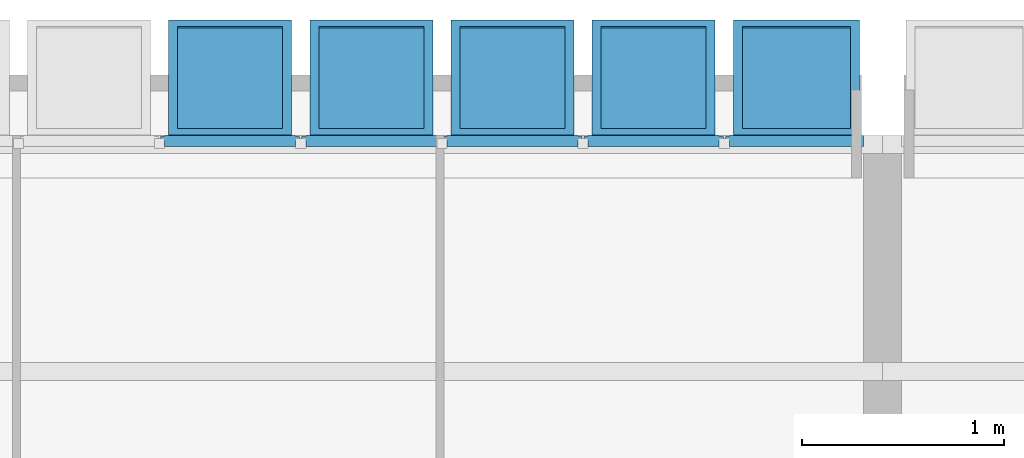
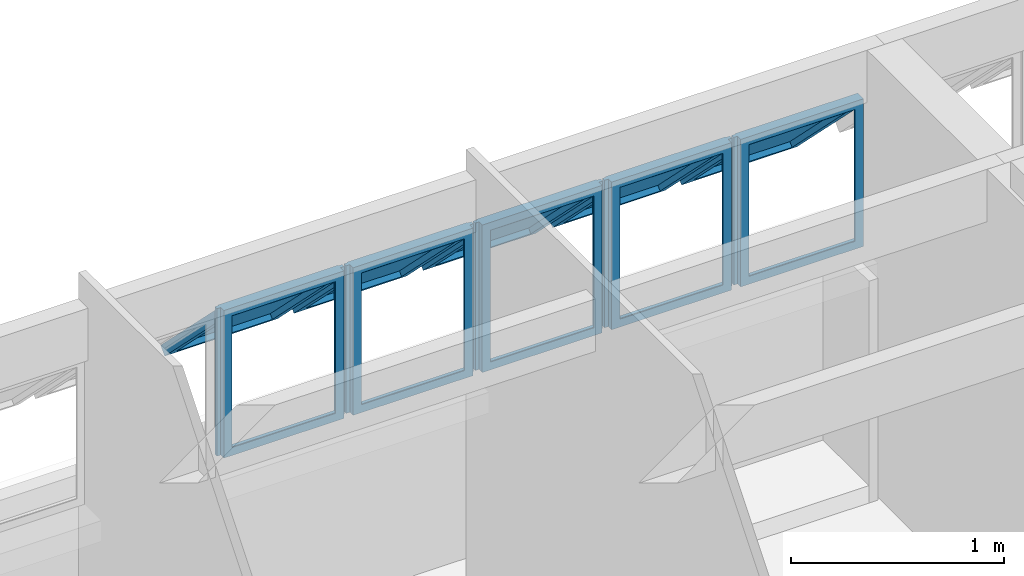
# One storey, part 15 of 40: 5 plates, 1 element without a shape of its own.
"""IFC4 building model written with IfcOpenShell, lengths in millimetres."""

import ifcopenshell
import ifcopenshell.guid

model = None  # the IFC model being written
_history = None  # IfcOwnerHistory: only IFC2X3 demands one
_inside = {}  # id of a spatial element -> (the spatial element, [elements in it])
_under = {}  # id of a project, library or spatial element -> (it, [spatial elements below it])
_declared = {}  # id of a project -> (the project, [libraries it declares])
_typed = {}  # id of a type object -> (the type object, [elements of that type])
_made_of = {}  # id of a material, layer set ... -> (it, [elements and type objects made of it])


def new_model(schema):
    """Start an empty IFC model of exactly this schema.

    Asked for "IFC4X3", IfcOpenShell would pick the latest addendum, in which some entities
    have other attributes; the version numbers below select the first issue.
    IFC2X3 requires an IfcOwnerHistory on every rooted entity: one is made here for all.
    """
    global model, _history
    if schema == "IFC4X3":
        model = ifcopenshell.file(schema_version=(4, 3, 0, 0))
    else:
        model = ifcopenshell.file(schema=schema)
    _inside.clear()
    _under.clear()
    _declared.clear()
    _typed.clear()
    _made_of.clear()
    _history = None
    if model.schema == "IFC2X3":
        org = make("IfcOrganization", Name="unknown")
        user = make(
            "IfcPersonAndOrganization",
            ThePerson=make("IfcPerson", FamilyName="unknown"),
            TheOrganization=org,
        )
        app = make(
            "IfcApplication",
            ApplicationDeveloper=org,
            Version="unknown",
            ApplicationFullName="unknown",
            ApplicationIdentifier="unknown",
        )
        _history = make(
            "IfcOwnerHistory",
            OwningUser=user,
            OwningApplication=app,
            ChangeAction="ADDED",
            CreationDate=0,
        )
    return model


def make(cls, **values):
    """One entity of the class cls with the attributes given. An attribute that is None is left unset."""
    return model.create_entity(
        cls, **{name: value for name, value in values.items() if value is not None}
    )


def entity(cls, *values):
    """Any entity or typed value of the class cls, its attributes in the order of the schema. None: left unset."""
    e = model.create_entity(cls)
    for i, value in enumerate(values):
        if value is not None:
            e[i] = value
    return e


def rooted(cls, **values):
    """An entity with a GlobalId (a new one), such as an element, a storey or a relation."""
    return make(cls, GlobalId=ifcopenshell.guid.new(), OwnerHistory=_history, **values)


def si_unit(unit_type, name, prefix=None):
    """IfcSIUnit, for example si_unit("LENGTHUNIT", "METRE", prefix="MILLI")."""
    return make("IfcSIUnit", UnitType=unit_type, Prefix=prefix, Name=name)


def converted_unit(unit_type, name, factor, base, dimensions=None, offset=None):
    """IfcConversionBasedUnit, such as the inch: factor (a typed value) times the base unit."""
    return make(
        "IfcConversionBasedUnit"
        if offset is None
        else "IfcConversionBasedUnitWithOffset",
        ConversionOffset=offset,
        Dimensions=None
        if dimensions is None
        else entity("IfcDimensionalExponents", *dimensions),
        UnitType=unit_type,
        Name=name,
        ConversionFactor=make(
            "IfcMeasureWithUnit", ValueComponent=factor, UnitComponent=base
        ),
    )


def derived_unit(unit_type, elements):
    """IfcDerivedUnit: a product of units, each with its exponent."""
    return make(
        "IfcDerivedUnit",
        Elements=[
            make("IfcDerivedUnitElement", Unit=unit, Exponent=power)
            for unit, power in elements
        ],
        UnitType=unit_type,
    )


def assignment(units):
    """IfcUnitAssignment: the units of a project."""
    return None if units is None else make("IfcUnitAssignment", Units=units)


def point(xyz):
    """IfcCartesianPoint."""
    return None if xyz is None else make("IfcCartesianPoint", Coordinates=xyz)


def direction(xyz):
    """IfcDirection."""
    return None if xyz is None else make("IfcDirection", DirectionRatios=xyz)


def frame(location, z_axis=None, x_axis=None):
    """IfcAxis2Placement3D, a coordinate frame: its origin and axes. An axis left out is left unset."""
    return make(
        "IfcAxis2Placement3D",
        Location=point(location),
        Axis=direction(z_axis),
        RefDirection=direction(x_axis),
    )


def origin_with_axes():
    """The frame at (0, 0, 0) with the z axis (0, 0, 1) and the x axis (1, 0, 0) written out."""
    return frame((0.0, 0.0, 0.0), z_axis=(0.0, 0.0, 1.0), x_axis=(1.0, 0.0, 0.0))


def place(relative_to, where):
    """IfcLocalPlacement: puts the frame where relative to a parent placement (None: the world)."""
    return make(
        "IfcLocalPlacement", PlacementRelTo=relative_to, RelativePlacement=where
    )


def context(
    kind, dimensions, precision=None, world=None, true_north=None, identifier=None
):
    """IfcGeometricRepresentationContext, for example the 3D "Model" context."""
    return make(
        "IfcGeometricRepresentationContext",
        ContextIdentifier=identifier,
        ContextType=kind,
        CoordinateSpaceDimension=dimensions,
        Precision=precision,
        WorldCoordinateSystem=world,
        TrueNorth=true_north,
    )


def subcontext(parent, identifier, kind, view, scale=None):
    """IfcGeometricRepresentationSubContext, for example "Body" below "Model"."""
    return make(
        "IfcGeometricRepresentationSubContext",
        ContextIdentifier=identifier,
        ContextType=kind,
        ParentContext=parent,
        TargetScale=scale,
        TargetView=view,
    )


def project(units=None, contexts=None):
    """IfcProject with its units and contexts."""
    return rooted(
        "IfcProject",
        Name="project",
        RepresentationContexts=contexts,
        UnitsInContext=assignment(units),
    )


def spatial(cls, under=None, at=None, **own):
    """A site, building, storey or space (cls), placed at a placement, below another one or the project."""
    s = rooted(cls, ObjectPlacement=at, **own)
    if under is not None:
        _under.setdefault(under.id(), (under, []))[1].append(s)
    return s


def point_list(points):
    """IfcCartesianPointList2D or 3D."""
    cls = (
        "IfcCartesianPointList2D" if len(points[0]) == 2 else "IfcCartesianPointList3D"
    )
    return make(cls, CoordList=points)


def polygons(points, faces, closed=None, point_numbers=None):
    """IfcPolygonalFaceSet: a face is its outer loop, then its inner loops; points numbered from 1."""
    made = []
    for loops in faces:
        if len(loops) == 1:
            made.append(make("IfcIndexedPolygonalFace", CoordIndex=loops[0]))
        else:
            made.append(
                make(
                    "IfcIndexedPolygonalFaceWithVoids",
                    CoordIndex=loops[0],
                    InnerCoordIndices=loops[1:],
                )
            )
    return make(
        "IfcPolygonalFaceSet",
        Coordinates=point_list(points),
        Closed=closed,
        Faces=made,
        PnIndex=point_numbers,
    )


def shape(context_of_items, identifier, shape_type, items):
    """IfcShapeRepresentation: the items that make up one representation, for example the "Body"."""
    return make(
        "IfcShapeRepresentation",
        ContextOfItems=context_of_items,
        RepresentationIdentifier=identifier,
        RepresentationType=shape_type,
        Items=items,
    )


def source(mapping_origin, context_of_items, identifier, shape_type, items):
    """IfcRepresentationMap: a shape defined once, which mapped items show again and again."""
    return make(
        "IfcRepresentationMap",
        MappingOrigin=mapping_origin,
        MappedRepresentation=shape(context_of_items, identifier, shape_type, items),
    )


def transform(
    local_origin,
    x_axis=None,
    y_axis=None,
    z_axis=None,
    scale=None,
    scale2=None,
    scale3=None,
    uniform=True,
):
    """IfcCartesianTransformationOperator3D, or its non-uniform kind. x_axis, y_axis, z_axis: its Axis1, 2, 3."""
    if uniform:
        return make(
            "IfcCartesianTransformationOperator3D",
            Axis1=direction(x_axis),
            Axis2=direction(y_axis),
            LocalOrigin=point(local_origin),
            Scale=scale,
            Axis3=direction(z_axis),
        )
    return make(
        "IfcCartesianTransformationOperator3DnonUniform",
        Axis1=direction(x_axis),
        Axis2=direction(y_axis),
        LocalOrigin=point(local_origin),
        Scale=scale,
        Axis3=direction(z_axis),
        Scale2=scale2,
        Scale3=scale3,
    )


def mapped(mapping_source, mapping_target):
    """IfcMappedItem: shows the shape of a source again, moved by a transform."""
    return make(
        "IfcMappedItem", MappingSource=mapping_source, MappingTarget=mapping_target
    )


def material(Name=None, Category=None):
    """IfcMaterial."""
    return make("IfcMaterial", Name=Name, Category=Category)


def constituent(of_material, Name=None, Category=None, fraction=None):
    """IfcMaterialConstituent: one of the materials an element consists of."""
    return make(
        "IfcMaterialConstituent",
        Name=Name,
        Material=of_material,
        Fraction=fraction,
        Category=Category,
    )


def constituent_set(constituents=None, Name=None):
    """IfcMaterialConstituentSet."""
    return make(
        "IfcMaterialConstituentSet", Name=Name, MaterialConstituents=constituents
    )


def made_of(thing, what):
    """Note that an element or type object is made of a material, layer set ...; save() writes the relation."""
    if what is not None:
        _made_of.setdefault(what.id(), (what, []))[1].append(thing)
    return thing


def type_object(cls, material=None, **own):
    """A type object (cls), such as IfcWallType, which elements share."""
    return made_of(rooted(cls, **own), material)


def element(
    cls,
    number,
    at=None,
    inside=None,
    cuts=None,
    type_object=None,
    material=None,
    context=None,
    identifier="Body",
    shape_type=None,
    held_by="IfcProductDefinitionShape",
    body=None,
    shapes=None,
    **own,
):
    """One element of the class cls, such as IfcWall. Its Tag is "e" and its number.

    at: its placement. inside: the storey or other place that contains it. cuts: it is an
    opening in that element (IfcRelVoidsElement). A single representation is given by context,
    identifier, shape_type and body (its items); several are given by shapes. held_by: the class
    of the entity that holds the representations. save() writes the other relations.
    """
    e = rooted(cls, Tag="e%d" % number, ObjectPlacement=at, **own)
    if body is not None:
        shapes = [shape(context, identifier, shape_type, body)]
    if shapes is not None:
        e.Representation = make(held_by, Representations=shapes)
    if inside is not None:
        _inside.setdefault(inside.id(), (inside, []))[1].append(e)
    if cuts is not None:
        rooted(
            "IfcRelVoidsElement", RelatingBuildingElement=cuts, RelatedOpeningElement=e
        )
    if type_object is not None:
        _typed.setdefault(type_object.id(), (type_object, []))[1].append(e)
    return made_of(e, material)


def aggregate(whole, parts):
    """IfcRelAggregates: a whole, such as a stair, and the parts it consists of."""
    return rooted("IfcRelAggregates", RelatingObject=whole, RelatedObjects=parts)


def save(model, path):
    """Write the relations noted so far, then the file.

    IfcRelAggregates (storeys below a building ...), IfcRelContainedInSpatialStructure (elements
    in a storey), IfcRelDefinesByType, IfcRelAssociatesMaterial and IfcRelDeclares: one each for
    every whole, place, type object, material and project.
    """
    for whole, parts in _under.values():
        aggregate(whole, parts)
    for where, things in _inside.values():
        rooted(
            "IfcRelContainedInSpatialStructure",
            RelatedElements=things,
            RelatingStructure=where,
        )
    for kind, things in _typed.values():
        rooted("IfcRelDefinesByType", RelatedObjects=things, RelatingType=kind)
    for what, things in _made_of.values():
        rooted("IfcRelAssociatesMaterial", RelatedObjects=things, RelatingMaterial=what)
    for by, libraries in _declared.values():
        rooted("IfcRelDeclares", RelatingContext=by, RelatedDefinitions=libraries)
    model.write(path)


model = new_model("IFC4")

# Units and contexts
model_context = context("Model", 3, precision=0.01, world=origin_with_axes(), true_north=direction((0.0, 1.0)))
body_context = subcontext(model_context, "Body", "Model", "MODEL_VIEW")
ifc_project = project(units=[si_unit("LENGTHUNIT", "METRE", prefix="MILLI"), si_unit("AREAUNIT", "SQUARE_METRE"), si_unit("VOLUMEUNIT", "CUBIC_METRE"), converted_unit("PLANEANGLEUNIT", "DEGREE", entity("IfcPlaneAngleMeasure", 0.0174532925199), si_unit("PLANEANGLEUNIT", "RADIAN"), dimensions=[0, 0, 0, 0, 0, 0, 0]), converted_unit("TIMEUNIT", "Year", entity("IfcTimeMeasure", 31556926.0), si_unit("TIMEUNIT", "SECOND"), dimensions=[0, 0, 1, 0, 0, 0, 0]), si_unit("MASSUNIT", "GRAM", prefix="KILO"), si_unit("THERMODYNAMICTEMPERATUREUNIT", "DEGREE_CELSIUS"), si_unit("LUMINOUSINTENSITYUNIT", "LUMEN"), si_unit("ENERGYUNIT", "JOULE", prefix="MEGA"), derived_unit("THERMALCONDUCTANCEUNIT", [(si_unit("POWERUNIT", "WATT"), 1), (si_unit("LENGTHUNIT", "METRE"), -1), (si_unit("THERMODYNAMICTEMPERATUREUNIT", "KELVIN"), -1)]), derived_unit("SPECIFICHEATCAPACITYUNIT", [(si_unit("ENERGYUNIT", "JOULE"), 1), (si_unit("MASSUNIT", "GRAM", prefix="KILO"), -1), (si_unit("THERMODYNAMICTEMPERATUREUNIT", "KELVIN"), -1)]), derived_unit("MASSDENSITYUNIT", [(si_unit("MASSUNIT", "GRAM", prefix="KILO"), 1), (si_unit("VOLUMEUNIT", "CUBIC_METRE"), -1)])], contexts=[model_context])

# Site, building, storey
site_placement = place(None, origin_with_axes())
site = spatial("IfcSite", under=ifc_project, at=site_placement, Name="Local", CompositionType="ELEMENT")
building_placement = place(site_placement, origin_with_axes())
building = spatial("IfcBuilding", under=site, at=building_placement, Name="Construção", CompositionType="ELEMENT")
storey_placement = place(building_placement, frame((0.0, 0.0, 5300.0), z_axis=(0.0, 0.0, 1.0), x_axis=(1.0, 0.0, 0.0)))
storey = spatial("IfcBuildingStorey", under=building, at=storey_placement, Name="Terceiro Pavimento", CompositionType="ELEMENT", Elevation=5300.0)

# Window, plates
window_type = type_object("IfcWindowType", Name="Tipo de Parede Cortina", PartitioningType="NOTDEFINED", PredefinedType="NOTDEFINED")
window_placement = place(storey_placement, frame((6250.0, 25844.9790225, 1355.02054151), z_axis=(0.0, 0.0, 1.0), x_axis=(1.0, 0.0, 0.0)))
window = element("IfcWindow", 1, at=window_placement, inside=storey, type_object=window_type, Name="APTO11-JANELA-001", PredefinedType="NOTDEFINED")
ifc_material_1 = material(Name="Alumínio")
ifc_constituent_1 = constituent(ifc_material_1, Name="Alumínio")
ifc_material_2 = material(Name="Vidro")
ifc_constituent_2 = constituent(ifc_material_2, Name="Vidro")
ifc_constituent_set_1 = constituent_set(constituents=[ifc_constituent_1, ifc_constituent_2])
plate_type_1 = type_object("IfcPlateType", Name="Painel Principal 690 x 845 x 20", PredefinedType="CURTAIN_PANEL")
shared_shape_1 = source(origin_with_axes(), body_context, "Body", "Tessellation", [
    polygons([(-25.0000036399, 0.0, -40.0), (-25.0000036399, 0.0, -35.0), (-674.999997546, 0.0, -35.0), (-674.999997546, 0.0, -40.0), (-70.0000036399, 45.0, -40.0), (-70.0000036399, 45.0, -35.0), (-629.999997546, 45.0, -35.0), (-629.999997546, 45.0, -40.0)], [[[1, 2, 3, 4]], [[5, 6, 2, 1]], [[2, 6, 7, 3]], [[4, 3, 7, 8]], [[1, 4, 8, 5]], [[8, 7, 6, 5]]], closed=True),
    polygons([(-674.999997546, 0.0, -40.0), (-674.999997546, 0.0, -35.0), (-674.999997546, 844.999891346, -35.0), (-674.999997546, 844.999891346, -40.0), (-629.999997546, 45.0, -40.0), (-629.999997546, 45.0, -35.0), (-629.999997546, 799.999891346, -35.0), (-629.999997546, 799.999891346, -40.0)], [[[1, 2, 3, 4]], [[5, 6, 2, 1]], [[2, 6, 7, 3]], [[4, 3, 7, 8]], [[1, 4, 8, 5]], [[8, 7, 6, 5]]], closed=True),
    polygons([(-25.0000036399, 844.999891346, -40.0), (-25.0000036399, 844.999891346, -35.0), (-70.0000036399, 799.999891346, -35.0), (-70.0000036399, 799.999891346, -40.0), (-674.999997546, 844.999891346, -40.0), (-674.999997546, 844.999891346, -35.0), (-629.999997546, 799.999891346, -35.0), (-629.999997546, 799.999891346, -40.0)], [[[1, 2, 3, 4]], [[5, 6, 2, 1]], [[2, 6, 7, 3]], [[4, 3, 7, 8]], [[1, 4, 8, 5]], [[8, 7, 6, 5]]], closed=True),
    polygons([(-25.0000036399, 0.0, -40.0), (-25.0000036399, 0.0, -35.0), (-70.0000036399, 45.0, -35.0), (-70.0000036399, 45.0, -40.0), (-25.0000036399, 844.999891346, -40.0), (-25.0000036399, 844.999891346, -35.0), (-70.0000036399, 799.999891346, -35.0), (-70.0000036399, 799.999891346, -40.0)], [[[1, 2, 3, 4]], [[5, 6, 2, 1]], [[2, 6, 7, 3]], [[4, 3, 7, 8]], [[1, 4, 8, 5]], [[8, 7, 6, 5]]], closed=True),
    polygons([(-25.0000036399, 0.0, -35.0), (-25.0000036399, 0.0, 15.0), (-674.999997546, 0.0, 15.0), (-674.999997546, 0.0, -35.0), (-45.0000036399, 20.0, -35.0), (-45.0000036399, 20.0, 15.0), (-654.999997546, 20.0, 15.0), (-654.999997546, 20.0, -35.0)], [[[1, 2, 3, 4]], [[5, 6, 2, 1]], [[2, 6, 7, 3]], [[4, 3, 7, 8]], [[1, 4, 8, 5]], [[8, 7, 6, 5]]], closed=True),
    polygons([(-674.999997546, 0.0, -35.0), (-674.999997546, 0.0, 15.0), (-674.999997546, 844.999891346, 15.0), (-674.999997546, 844.999891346, -35.0), (-654.999997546, 20.0, -35.0), (-654.999997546, 20.0, 15.0), (-654.999997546, 824.999891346, 15.0), (-654.999997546, 824.999891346, -35.0)], [[[1, 2, 3, 4]], [[5, 6, 2, 1]], [[2, 6, 7, 3]], [[4, 3, 7, 8]], [[1, 4, 8, 5]], [[8, 7, 6, 5]]], closed=True),
    polygons([(-25.0000036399, 844.999891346, -35.0), (-25.0000036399, 844.999891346, 15.0), (-45.0000036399, 824.999891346, 15.0), (-45.0000036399, 824.999891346, -35.0), (-674.999997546, 844.999891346, -35.0), (-674.999997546, 844.999891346, 15.0), (-654.999997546, 824.999891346, 15.0), (-654.999997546, 824.999891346, -35.0)], [[[1, 2, 3, 4]], [[5, 6, 2, 1]], [[2, 6, 7, 3]], [[4, 3, 7, 8]], [[1, 4, 8, 5]], [[8, 7, 6, 5]]], closed=True),
    polygons([(-25.0000036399, 0.0, -35.0), (-25.0000036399, 0.0, 15.0), (-45.0000036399, 20.0, 15.0), (-45.0000036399, 20.0, -35.0), (-25.0000036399, 844.999891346, -35.0), (-25.0000036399, 844.999891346, 15.0), (-45.0000036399, 824.999891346, 15.0), (-45.0000036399, 824.999891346, -35.0)], [[[1, 2, 3, 4]], [[5, 6, 2, 1]], [[2, 6, 7, 3]], [[4, 3, 7, 8]], [[1, 4, 8, 5]], [[8, 7, 6, 5]]], closed=True),
    polygons([(-694.999995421, 0.0, -10.0), (-694.999995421, 0.0, 10.0), (-694.999995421, 844.999891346, 10.0), (-694.999995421, 844.999891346, -10.0), (-674.999997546, 0.0, -10.0), (-674.999997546, 0.0, 10.0), (-674.999997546, 844.999891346, 10.0), (-674.999997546, 844.999891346, -10.0)], [[[1, 2, 3, 4]], [[5, 6, 2, 1]], [[2, 6, 7, 3]], [[4, 3, 7, 8]], [[1, 4, 8, 5]], [[8, 7, 6, 5]]], closed=True),
    polygons([(-5.00000576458, 844.999891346, -10.0), (-5.00000576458, 844.999891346, 10.0), (-5.00000576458, 0.0, 10.0), (-5.00000576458, 0.0, -10.0), (-25.0000036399, 844.999891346, -10.0), (-25.0000036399, 844.999891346, 10.0), (-25.0000036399, 0.0, 10.0), (-25.0000036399, 0.0, -10.0)], [[[1, 2, 3, 4]], [[5, 6, 2, 1]], [[2, 6, 7, 3]], [[4, 3, 7, 8]], [[1, 4, 8, 5]], [[8, 7, 6, 5]]], closed=True),
    polygons([(-90.0000036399, 252.243475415, 517.045737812), (-90.0000036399, 291.13434838, 555.936610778), (-90.0000036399, 796.715620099, 50.3553390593), (-90.0000036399, 757.824747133, 11.4644660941), (-45.0000036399, 220.423670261, 548.865542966), (-45.0000036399, 259.314543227, 587.756415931), (-45.0000036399, 828.535425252, 18.5355339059), (-45.0000036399, 789.644552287, -20.3553390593)], [[[1, 2, 3, 4]], [[5, 6, 2, 1]], [[2, 6, 7, 3]], [[4, 3, 7, 8]], [[1, 4, 8, 5]], [[8, 7, 6, 5]]], closed=True),
    polygons([(-654.999997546, 220.423670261, 548.865542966), (-654.999997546, 259.314543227, 587.756415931), (-654.999997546, 828.535425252, 18.5355339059), (-654.999997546, 789.644552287, -20.3553390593), (-609.999997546, 252.243475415, 517.045737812), (-609.999997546, 291.13434838, 555.936610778), (-609.999997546, 796.715620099, 50.3553390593), (-609.999997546, 757.824747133, 11.4644660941)], [[[1, 2, 3, 4]], [[5, 6, 2, 1]], [[2, 6, 7, 3]], [[4, 3, 7, 8]], [[1, 4, 8, 5]], [[8, 7, 6, 5]]], closed=True),
    polygons([(-654.999997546, 220.423670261, 548.865542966), (-654.999997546, 259.314543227, 587.756415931), (-609.999997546, 291.13434838, 555.936610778), (-609.999997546, 252.243475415, 517.045737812), (-45.0000036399, 220.423670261, 548.865542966), (-45.0000036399, 259.314543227, 587.756415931), (-90.0000036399, 291.13434838, 555.936610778), (-90.0000036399, 252.243475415, 517.045737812)], [[[1, 2, 3, 4]], [[5, 6, 2, 1]], [[2, 6, 7, 3]], [[4, 3, 7, 8]], [[1, 4, 8, 5]], [[8, 7, 6, 5]]], closed=True),
    polygons([(-45.0000036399, 789.644552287, -20.3553390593), (-45.0000036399, 828.535425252, 18.5355339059), (-90.0000036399, 796.715620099, 50.3553390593), (-90.0000036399, 757.824747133, 11.4644660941), (-654.999997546, 789.644552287, -20.3553390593), (-654.999997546, 828.535425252, 18.5355339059), (-609.999997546, 796.715620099, 50.3553390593), (-609.999997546, 757.824747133, 11.4644660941)], [[[1, 2, 3, 4]], [[5, 6, 2, 1]], [[2, 6, 7, 3]], [[4, 3, 7, 8]], [[1, 4, 8, 5]], [[8, 7, 6, 5]]], closed=True),
    polygons([(-90.0000036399, 272.749572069, 537.551834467), (-90.0000036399, 284.063280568, 548.865542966), (-609.999997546, 284.063280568, 548.865542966), (-609.999997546, 272.749572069, 537.551834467), (-90.0000036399, 778.330843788, 31.9705627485), (-90.0000036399, 789.644552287, 43.2842712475), (-609.999997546, 789.644552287, 43.2842712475), (-609.999997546, 778.330843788, 31.9705627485)], [[[1, 2, 3, 4]], [[5, 6, 2, 1]], [[2, 6, 7, 3]], [[4, 3, 7, 8]], [[1, 4, 8, 5]], [[8, 7, 6, 5]]], closed=True),
])
plate_1_placement = place(window_placement, frame((0.0, 0.0, 422.499945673), z_axis=(0.0, 0.0, 1.0), x_axis=(-1.0, 0.0, 0.0)))
plate_1 = element("IfcPlate", 2, at=plate_1_placement, type_object=plate_type_1, material=ifc_constituent_set_1, Name="APTO11-Painel-Prin-030", PredefinedType="CURTAIN_PANEL", context=body_context, shape_type="MappedRepresentation", body=[
    mapped(shared_shape_1, transform((350.0, 0.0, -422.499945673), x_axis=(1.0, 0.0, 0.0), y_axis=(0.0, 0.0, 1.0), z_axis=(0.0, -1.0, 0.0))),
])
ifc_constituent_3 = constituent(ifc_material_1, Name="Alumínio")
ifc_constituent_4 = constituent(ifc_material_2, Name="Vidro")
ifc_constituent_set_2 = constituent_set(constituents=[ifc_constituent_3, ifc_constituent_4])
plate_2_placement = place(window_placement, frame((-700.0, 0.0, 422.499945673), z_axis=(0.0, 0.0, 1.0), x_axis=(-1.0, 0.0, 0.0)))
plate_2 = element("IfcPlate", 3, at=plate_2_placement, type_object=plate_type_1, material=ifc_constituent_set_2, Name="APTO11-Painel-Prin-020", PredefinedType="CURTAIN_PANEL", context=body_context, shape_type="MappedRepresentation", body=[
    mapped(shared_shape_1, transform((350.0, 0.0, -422.499945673), x_axis=(1.0, 0.0, 0.0), y_axis=(0.0, 0.0, 1.0), z_axis=(0.0, -1.0, 0.0))),
])
ifc_constituent_5 = constituent(ifc_material_1, Name="Alumínio")
ifc_constituent_6 = constituent(ifc_material_2, Name="Vidro")
ifc_constituent_set_3 = constituent_set(constituents=[ifc_constituent_5, ifc_constituent_6])
plate_3_placement = place(window_placement, frame((-1400.0, 0.0, 422.499945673), z_axis=(0.0, 0.0, 1.0), x_axis=(-1.0, 0.0, 0.0)))
plate_3 = element("IfcPlate", 4, at=plate_3_placement, type_object=plate_type_1, material=ifc_constituent_set_3, Name="APTO11-Painel-Prin-029", PredefinedType="CURTAIN_PANEL", context=body_context, shape_type="MappedRepresentation", body=[
    mapped(shared_shape_1, transform((350.0, 0.0, -422.499945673), x_axis=(1.0, 0.0, 0.0), y_axis=(0.0, 0.0, 1.0), z_axis=(0.0, -1.0, 0.0))),
])
ifc_constituent_7 = constituent(ifc_material_1, Name="Alumínio")
ifc_constituent_8 = constituent(ifc_material_2, Name="Vidro")
ifc_constituent_set_4 = constituent_set(constituents=[ifc_constituent_7, ifc_constituent_8])
shared_shape_2 = source(origin_with_axes(), body_context, "Body", "Tessellation", [
    polygons([(-25.0000036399, 0.0, -40.0), (-25.0000036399, 0.0, -35.0), (-674.999997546, 0.0, -35.0), (-674.999997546, 0.0, -40.0), (-70.0000036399, 45.0, -40.0), (-70.0000036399, 45.0, -35.0), (-629.999997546, 45.0, -35.0), (-629.999997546, 45.0, -40.0)], [[[1, 2, 3, 4]], [[5, 6, 2, 1]], [[2, 6, 7, 3]], [[4, 3, 7, 8]], [[1, 4, 8, 5]], [[8, 7, 6, 5]]], closed=True),
    polygons([(-674.999997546, 0.0, -40.0), (-674.999997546, 0.0, -35.0), (-674.999997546, 844.999891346, -35.0), (-674.999997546, 844.999891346, -40.0), (-629.999997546, 45.0, -40.0), (-629.999997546, 45.0, -35.0), (-629.999997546, 799.999891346, -35.0), (-629.999997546, 799.999891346, -40.0)], [[[1, 2, 3, 4]], [[5, 6, 2, 1]], [[2, 6, 7, 3]], [[4, 3, 7, 8]], [[1, 4, 8, 5]], [[8, 7, 6, 5]]], closed=True),
    polygons([(-25.0000036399, 844.999891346, -40.0), (-25.0000036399, 844.999891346, -35.0), (-70.0000036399, 799.999891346, -35.0), (-70.0000036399, 799.999891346, -40.0), (-674.999997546, 844.999891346, -40.0), (-674.999997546, 844.999891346, -35.0), (-629.999997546, 799.999891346, -35.0), (-629.999997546, 799.999891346, -40.0)], [[[1, 2, 3, 4]], [[5, 6, 2, 1]], [[2, 6, 7, 3]], [[4, 3, 7, 8]], [[1, 4, 8, 5]], [[8, 7, 6, 5]]], closed=True),
    polygons([(-25.0000036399, 0.0, -40.0), (-25.0000036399, 0.0, -35.0), (-70.0000036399, 45.0, -35.0), (-70.0000036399, 45.0, -40.0), (-25.0000036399, 844.999891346, -40.0), (-25.0000036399, 844.999891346, -35.0), (-70.0000036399, 799.999891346, -35.0), (-70.0000036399, 799.999891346, -40.0)], [[[1, 2, 3, 4]], [[5, 6, 2, 1]], [[2, 6, 7, 3]], [[4, 3, 7, 8]], [[1, 4, 8, 5]], [[8, 7, 6, 5]]], closed=True),
    polygons([(-25.0000036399, 0.0, -35.0), (-25.0000036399, 0.0, 15.0), (-674.999997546, 0.0, 15.0), (-674.999997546, 0.0, -35.0), (-45.0000036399, 20.0, -35.0), (-45.0000036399, 20.0, 15.0), (-654.999997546, 20.0, 15.0), (-654.999997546, 20.0, -35.0)], [[[1, 2, 3, 4]], [[5, 6, 2, 1]], [[2, 6, 7, 3]], [[4, 3, 7, 8]], [[1, 4, 8, 5]], [[8, 7, 6, 5]]], closed=True),
    polygons([(-674.999997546, 0.0, -35.0), (-674.999997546, 0.0, 15.0), (-674.999997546, 844.999891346, 15.0), (-674.999997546, 844.999891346, -35.0), (-654.999997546, 20.0, -35.0), (-654.999997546, 20.0, 15.0), (-654.999997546, 824.999891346, 15.0), (-654.999997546, 824.999891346, -35.0)], [[[1, 2, 3, 4]], [[5, 6, 2, 1]], [[2, 6, 7, 3]], [[4, 3, 7, 8]], [[1, 4, 8, 5]], [[8, 7, 6, 5]]], closed=True),
    polygons([(-25.0000036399, 844.999891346, -35.0), (-25.0000036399, 844.999891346, 15.0), (-45.0000036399, 824.999891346, 15.0), (-45.0000036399, 824.999891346, -35.0), (-674.999997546, 844.999891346, -35.0), (-674.999997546, 844.999891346, 15.0), (-654.999997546, 824.999891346, 15.0), (-654.999997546, 824.999891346, -35.0)], [[[1, 2, 3, 4]], [[5, 6, 2, 1]], [[2, 6, 7, 3]], [[4, 3, 7, 8]], [[1, 4, 8, 5]], [[8, 7, 6, 5]]], closed=True),
    polygons([(-25.0000036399, 0.0, -35.0), (-25.0000036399, 0.0, 15.0), (-45.0000036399, 20.0, 15.0), (-45.0000036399, 20.0, -35.0), (-25.0000036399, 844.999891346, -35.0), (-25.0000036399, 844.999891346, 15.0), (-45.0000036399, 824.999891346, 15.0), (-45.0000036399, 824.999891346, -35.0)], [[[1, 2, 3, 4]], [[5, 6, 2, 1]], [[2, 6, 7, 3]], [[4, 3, 7, 8]], [[1, 4, 8, 5]], [[8, 7, 6, 5]]], closed=True),
    polygons([(-694.999995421, 0.0, -10.0), (-694.999995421, 0.0, 10.0), (-694.999995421, 844.999891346, 10.0), (-694.999995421, 844.999891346, -10.0), (-674.999997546, 0.0, -10.0), (-674.999997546, 0.0, 10.0), (-674.999997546, 844.999891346, 10.0), (-674.999997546, 844.999891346, -10.0)], [[[1, 2, 3, 4]], [[5, 6, 2, 1]], [[2, 6, 7, 3]], [[4, 3, 7, 8]], [[1, 4, 8, 5]], [[8, 7, 6, 5]]], closed=True),
    polygons([(-5.00000576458, 844.999891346, -10.0), (-5.00000576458, 844.999891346, 10.0), (-5.00000576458, 0.0, 10.0), (-5.00000576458, 0.0, -10.0), (-25.0000036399, 844.999891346, -10.0), (-25.0000036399, 844.999891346, 10.0), (-25.0000036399, 0.0, 10.0), (-25.0000036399, 0.0, -10.0)], [[[1, 2, 3, 4]], [[5, 6, 2, 1]], [[2, 6, 7, 3]], [[4, 3, 7, 8]], [[1, 4, 8, 5]], [[8, 7, 6, 5]]], closed=True),
    polygons([(-90.0000036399, 252.243475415, 517.045737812), (-90.0000036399, 291.13434838, 555.936610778), (-90.0000036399, 796.715620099, 50.3553390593), (-90.0000036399, 757.824747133, 11.4644660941), (-45.0000036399, 220.423670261, 548.865542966), (-45.0000036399, 259.314543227, 587.756415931), (-45.0000036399, 828.535425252, 18.5355339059), (-45.0000036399, 789.644552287, -20.3553390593)], [[[1, 2, 3, 4]], [[5, 6, 2, 1]], [[2, 6, 7, 3]], [[4, 3, 7, 8]], [[1, 4, 8, 5]], [[8, 7, 6, 5]]], closed=True),
    polygons([(-654.999997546, 220.423670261, 548.865542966), (-654.999997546, 259.314543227, 587.756415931), (-654.999997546, 828.535425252, 18.5355339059), (-654.999997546, 789.644552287, -20.3553390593), (-609.999997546, 252.243475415, 517.045737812), (-609.999997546, 291.13434838, 555.936610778), (-609.999997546, 796.715620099, 50.3553390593), (-609.999997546, 757.824747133, 11.4644660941)], [[[1, 2, 3, 4]], [[5, 6, 2, 1]], [[2, 6, 7, 3]], [[4, 3, 7, 8]], [[1, 4, 8, 5]], [[8, 7, 6, 5]]], closed=True),
    polygons([(-654.999997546, 220.423670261, 548.865542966), (-654.999997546, 259.314543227, 587.756415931), (-609.999997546, 291.13434838, 555.936610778), (-609.999997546, 252.243475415, 517.045737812), (-45.0000036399, 220.423670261, 548.865542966), (-45.0000036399, 259.314543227, 587.756415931), (-90.0000036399, 291.13434838, 555.936610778), (-90.0000036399, 252.243475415, 517.045737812)], [[[1, 2, 3, 4]], [[5, 6, 2, 1]], [[2, 6, 7, 3]], [[4, 3, 7, 8]], [[1, 4, 8, 5]], [[8, 7, 6, 5]]], closed=True),
    polygons([(-45.0000036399, 789.644552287, -20.3553390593), (-45.0000036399, 828.535425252, 18.5355339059), (-90.0000036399, 796.715620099, 50.3553390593), (-90.0000036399, 757.824747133, 11.4644660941), (-654.999997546, 789.644552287, -20.3553390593), (-654.999997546, 828.535425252, 18.5355339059), (-609.999997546, 796.715620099, 50.3553390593), (-609.999997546, 757.824747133, 11.4644660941)], [[[1, 2, 3, 4]], [[5, 6, 2, 1]], [[2, 6, 7, 3]], [[4, 3, 7, 8]], [[1, 4, 8, 5]], [[8, 7, 6, 5]]], closed=True),
    polygons([(-90.0000036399, 272.749572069, 537.551834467), (-90.0000036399, 284.063280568, 548.865542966), (-609.999997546, 284.063280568, 548.865542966), (-609.999997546, 272.749572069, 537.551834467), (-90.0000036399, 778.330843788, 31.9705627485), (-90.0000036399, 789.644552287, 43.2842712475), (-609.999997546, 789.644552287, 43.2842712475), (-609.999997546, 778.330843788, 31.9705627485)], [[[1, 2, 3, 4]], [[5, 6, 2, 1]], [[2, 6, 7, 3]], [[4, 3, 7, 8]], [[1, 4, 8, 5]], [[8, 7, 6, 5]]], closed=True),
])
plate_4_placement = place(window_placement, frame((-2100.0, 0.0, 422.499945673), z_axis=(0.0, 0.0, 1.0), x_axis=(-1.0, 0.0, 0.0)))
plate_4 = element("IfcPlate", 5, at=plate_4_placement, type_object=plate_type_1, material=ifc_constituent_set_4, Name="APTO11-Painel-Prin-025", PredefinedType="CURTAIN_PANEL", context=body_context, shape_type="MappedRepresentation", body=[
    mapped(shared_shape_2, transform((350.0, 0.0, -422.499945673), x_axis=(1.0, 0.0, 0.0), y_axis=(0.0, 0.0, 1.0), z_axis=(0.0, -1.0, 0.0))),
])
ifc_constituent_9 = constituent(ifc_material_1, Name="Alumínio")
ifc_constituent_10 = constituent(ifc_material_2, Name="Vidro")
ifc_constituent_set_5 = constituent_set(constituents=[ifc_constituent_9, ifc_constituent_10])
plate_type_2 = type_object("IfcPlateType", Name="Painel Principal 685 x 845 x 20", PredefinedType="CURTAIN_PANEL")
shared_shape_3 = source(origin_with_axes(), body_context, "Body", "Tessellation", [
    polygons([(-25.0000046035, 0.0, -40.0), (-25.0000046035, 0.0, -35.0), (-690.000079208, 0.0, -35.0), (-690.000079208, 0.0, -40.0), (-70.0000046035, 45.0, -40.0), (-70.0000046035, 45.0, -35.0), (-645.000079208, 45.0, -35.0), (-645.000079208, 45.0, -40.0)], [[[1, 2, 3, 4]], [[5, 6, 2, 1]], [[2, 6, 7, 3]], [[4, 3, 7, 8]], [[1, 4, 8, 5]], [[8, 7, 6, 5]]], closed=True),
    polygons([(-690.000079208, 0.0, -40.0), (-690.000079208, 0.0, -35.0), (-690.000079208, 844.999923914, -35.0), (-690.000079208, 844.999923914, -40.0), (-645.000079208, 45.0, -40.0), (-645.000079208, 45.0, -35.0), (-645.000079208, 799.999923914, -35.0), (-645.000079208, 799.999923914, -40.0)], [[[1, 2, 3, 4]], [[5, 6, 2, 1]], [[2, 6, 7, 3]], [[4, 3, 7, 8]], [[1, 4, 8, 5]], [[8, 7, 6, 5]]], closed=True),
    polygons([(-25.0000046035, 844.999923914, -40.0), (-25.0000046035, 844.999923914, -35.0), (-70.0000046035, 799.999923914, -35.0), (-70.0000046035, 799.999923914, -40.0), (-690.000079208, 844.999923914, -40.0), (-690.000079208, 844.999923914, -35.0), (-645.000079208, 799.999923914, -35.0), (-645.000079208, 799.999923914, -40.0)], [[[1, 2, 3, 4]], [[5, 6, 2, 1]], [[2, 6, 7, 3]], [[4, 3, 7, 8]], [[1, 4, 8, 5]], [[8, 7, 6, 5]]], closed=True),
    polygons([(-25.0000046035, 0.0, -40.0), (-25.0000046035, 0.0, -35.0), (-70.0000046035, 45.0, -35.0), (-70.0000046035, 45.0, -40.0), (-25.0000046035, 844.999923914, -40.0), (-25.0000046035, 844.999923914, -35.0), (-70.0000046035, 799.999923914, -35.0), (-70.0000046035, 799.999923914, -40.0)], [[[1, 2, 3, 4]], [[5, 6, 2, 1]], [[2, 6, 7, 3]], [[4, 3, 7, 8]], [[1, 4, 8, 5]], [[8, 7, 6, 5]]], closed=True),
    polygons([(-25.0000046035, 0.0, -35.0), (-25.0000046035, 0.0, 15.0), (-690.000079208, 0.0, 15.0), (-690.000079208, 0.0, -35.0), (-45.0000046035, 20.0, -35.0), (-45.0000046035, 20.0, 15.0), (-670.000079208, 20.0, 15.0), (-670.000079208, 20.0, -35.0)], [[[1, 2, 3, 4]], [[5, 6, 2, 1]], [[2, 6, 7, 3]], [[4, 3, 7, 8]], [[1, 4, 8, 5]], [[8, 7, 6, 5]]], closed=True),
    polygons([(-690.000079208, 0.0, -35.0), (-690.000079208, 0.0, 15.0), (-690.000079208, 844.999923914, 15.0), (-690.000079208, 844.999923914, -35.0), (-670.000079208, 20.0, -35.0), (-670.000079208, 20.0, 15.0), (-670.000079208, 824.999923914, 15.0), (-670.000079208, 824.999923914, -35.0)], [[[1, 2, 3, 4]], [[5, 6, 2, 1]], [[2, 6, 7, 3]], [[4, 3, 7, 8]], [[1, 4, 8, 5]], [[8, 7, 6, 5]]], closed=True),
    polygons([(-25.0000046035, 844.999923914, -35.0), (-25.0000046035, 844.999923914, 15.0), (-45.0000046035, 824.999923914, 15.0), (-45.0000046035, 824.999923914, -35.0), (-690.000079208, 844.999923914, -35.0), (-690.000079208, 844.999923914, 15.0), (-670.000079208, 824.999923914, 15.0), (-670.000079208, 824.999923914, -35.0)], [[[1, 2, 3, 4]], [[5, 6, 2, 1]], [[2, 6, 7, 3]], [[4, 3, 7, 8]], [[1, 4, 8, 5]], [[8, 7, 6, 5]]], closed=True),
    polygons([(-25.0000046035, 0.0, -35.0), (-25.0000046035, 0.0, 15.0), (-45.0000046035, 20.0, 15.0), (-45.0000046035, 20.0, -35.0), (-25.0000046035, 844.999923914, -35.0), (-25.0000046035, 844.999923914, 15.0), (-45.0000046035, 824.999923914, 15.0), (-45.0000046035, 824.999923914, -35.0)], [[[1, 2, 3, 4]], [[5, 6, 2, 1]], [[2, 6, 7, 3]], [[4, 3, 7, 8]], [[1, 4, 8, 5]], [[8, 7, 6, 5]]], closed=True),
    polygons([(-5.00000595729, 844.999923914, -10.0), (-5.00000595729, 844.999923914, 10.0), (-5.00000595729, 0.0, 10.0), (-5.00000595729, 0.0, -10.0), (-25.0000046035, 844.999923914, -10.0), (-25.0000046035, 844.999923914, 10.0), (-25.0000046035, 0.0, 10.0), (-25.0000046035, 0.0, -10.0)], [[[1, 2, 3, 4]], [[5, 6, 2, 1]], [[2, 6, 7, 3]], [[4, 3, 7, 8]], [[1, 4, 8, 5]], [[8, 7, 6, 5]]], closed=True),
    polygons([(-90.0000046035, 252.243484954, 517.045760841), (-90.0000046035, 291.134357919, 555.936633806), (-90.0000046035, 796.715652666, 50.3553390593), (-90.0000046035, 757.824779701, 11.4644660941), (-45.0000046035, 220.4236798, 548.865565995), (-45.0000046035, 259.314552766, 587.75643896), (-45.0000046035, 828.535457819, 18.5355339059), (-45.0000046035, 789.644584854, -20.3553390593)], [[[1, 2, 3, 4]], [[5, 6, 2, 1]], [[2, 6, 7, 3]], [[4, 3, 7, 8]], [[1, 4, 8, 5]], [[8, 7, 6, 5]]], closed=True),
    polygons([(-670.000079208, 220.4236798, 548.865565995), (-670.000079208, 259.314552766, 587.75643896), (-670.000079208, 828.535457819, 18.5355339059), (-670.000079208, 789.644584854, -20.3553390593), (-625.000079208, 252.243484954, 517.045760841), (-625.000079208, 291.134357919, 555.936633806), (-625.000079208, 796.715652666, 50.3553390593), (-625.000079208, 757.824779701, 11.4644660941)], [[[1, 2, 3, 4]], [[5, 6, 2, 1]], [[2, 6, 7, 3]], [[4, 3, 7, 8]], [[1, 4, 8, 5]], [[8, 7, 6, 5]]], closed=True),
    polygons([(-670.000079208, 220.4236798, 548.865565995), (-670.000079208, 259.314552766, 587.75643896), (-625.000079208, 291.134357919, 555.936633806), (-625.000079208, 252.243484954, 517.045760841), (-45.0000046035, 220.4236798, 548.865565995), (-45.0000046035, 259.314552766, 587.75643896), (-90.0000046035, 291.134357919, 555.936633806), (-90.0000046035, 252.243484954, 517.045760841)], [[[1, 2, 3, 4]], [[5, 6, 2, 1]], [[2, 6, 7, 3]], [[4, 3, 7, 8]], [[1, 4, 8, 5]], [[8, 7, 6, 5]]], closed=True),
    polygons([(-45.0000046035, 789.644584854, -20.3553390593), (-45.0000046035, 828.535457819, 18.5355339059), (-90.0000046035, 796.715652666, 50.3553390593), (-90.0000046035, 757.824779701, 11.4644660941), (-670.000079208, 789.644584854, -20.3553390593), (-670.000079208, 828.535457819, 18.5355339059), (-625.000079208, 796.715652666, 50.3553390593), (-625.000079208, 757.824779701, 11.4644660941)], [[[1, 2, 3, 4]], [[5, 6, 2, 1]], [[2, 6, 7, 3]], [[4, 3, 7, 8]], [[1, 4, 8, 5]], [[8, 7, 6, 5]]], closed=True),
    polygons([(-90.0000046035, 272.749581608, 537.551857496), (-90.0000046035, 284.063290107, 548.865565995), (-625.000079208, 284.063290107, 548.865565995), (-625.000079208, 272.749581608, 537.551857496), (-90.0000046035, 778.330876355, 31.9705627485), (-90.0000046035, 789.644584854, 43.2842712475), (-625.000079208, 789.644584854, 43.2842712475), (-625.000079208, 778.330876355, 31.9705627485)], [[[1, 2, 3, 4]], [[5, 6, 2, 1]], [[2, 6, 7, 3]], [[4, 3, 7, 8]], [[1, 4, 8, 5]], [[8, 7, 6, 5]]], closed=True),
])
plate_5_placement = place(window_placement, frame((695.000037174, 0.0, 422.499953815), z_axis=(0.0, 0.0, 1.0), x_axis=(-1.0, 0.0, 0.0)))
plate_5 = element("IfcPlate", 6, at=plate_5_placement, type_object=plate_type_2, material=ifc_constituent_set_5, Name="APTO11-Painel-Prin-031", PredefinedType="CURTAIN_PANEL", context=body_context, shape_type="MappedRepresentation", body=[
    mapped(shared_shape_3, transform((345.000037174, 0.0, -422.499953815), x_axis=(1.0, 0.0, 0.0), y_axis=(0.0, 0.0, 1.0), z_axis=(0.0, -1.0, 0.0))),
])
aggregate(window, [plate_1, plate_5, plate_4, plate_2, plate_3])

save(model, "model.ifc")
